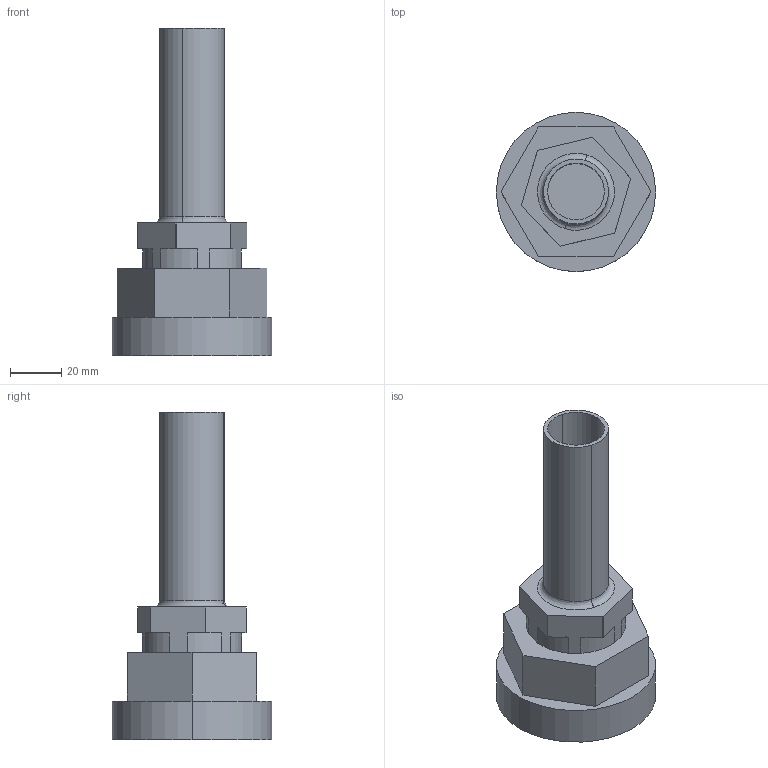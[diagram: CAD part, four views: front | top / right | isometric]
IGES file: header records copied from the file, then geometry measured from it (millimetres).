
Start section: SolidWorks IGES file using analytic representation for surfaces
Global section: file name: S:\Product Visuals\Pumps to be Defeatured\140 fittings\FITTING ASSEMBLIES\DEFEATURED\top-out\16-tube-out-top-out.IGS; native system: SolidWorks 2012; preprocessor: SolidWorks 2012; author: rachel.dressel; date: 121203.151719; units: inch
Bounding box: 62.33 x 62.33 x 128.17 mm (x, y, z)
Volume: 103064.5 mm3; surface area: 29227.4 mm2
Topology: 1 solids, 1 shells, 42 faces, 106 edges, 70 vertices
Faces by surface type: plane 24, revolution 18
